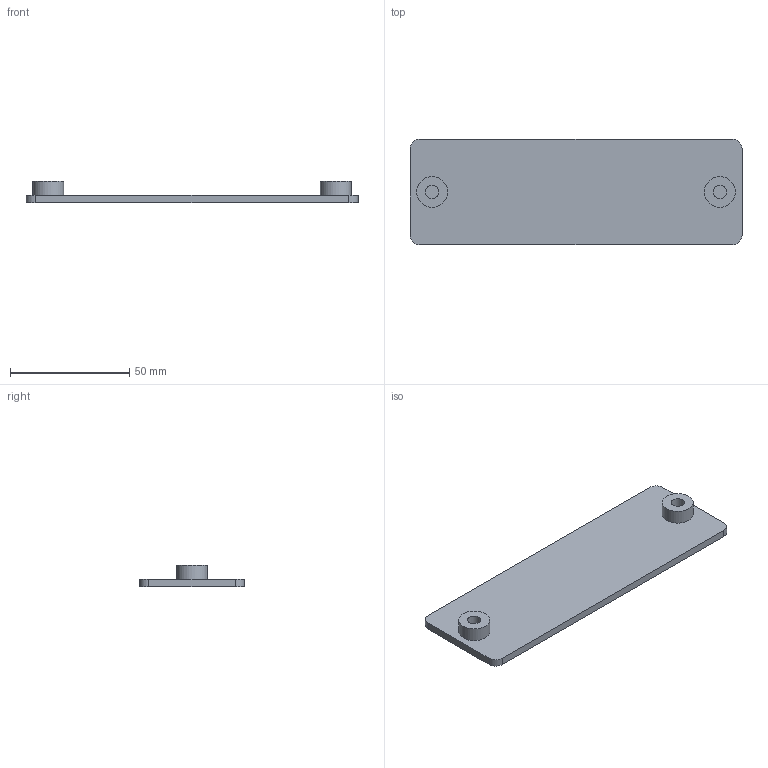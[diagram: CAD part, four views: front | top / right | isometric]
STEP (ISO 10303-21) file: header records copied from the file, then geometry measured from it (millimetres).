
FILE_DESCRIPTION(('Open CASCADE Model'),'2;1');
FILE_NAME('Open CASCADE Shape Model','2026-07-23T11:12:49',('Author'),( 'Open CASCADE'),'Open CASCADE STEP processor 7.9','Open CASCADE 7.9' ,'Unknown');
FILE_SCHEMA(('AUTOMOTIVE_DESIGN { 1 0 10303 214 1 1 1 1 }'));
Length unit declared in the file: millimetre
Products named in the file (1): Open CASCADE STEP translator 7.9 9
Bounding box: 139.16 x 44.1 x 9.2 mm (x, y, z)
Volume: 20878.2 mm3; surface area: 14112 mm2
Topology: 1 solids, 1 shells, 18 faces, 36 edges, 24 vertices
Faces by surface type: plane 10, cylinder 8
Full cylindrical faces by diameter (mm): 5.5 x2, 13 x2
Entity records: 972 total; most frequent: CARTESIAN_POINT 187, DIRECTION 156, LINE 76, VECTOR 76, ORIENTED_EDGE 72, PCURVE 72, DEFINITIONAL_REPRESENTATION 72, EDGE_CURVE 36
